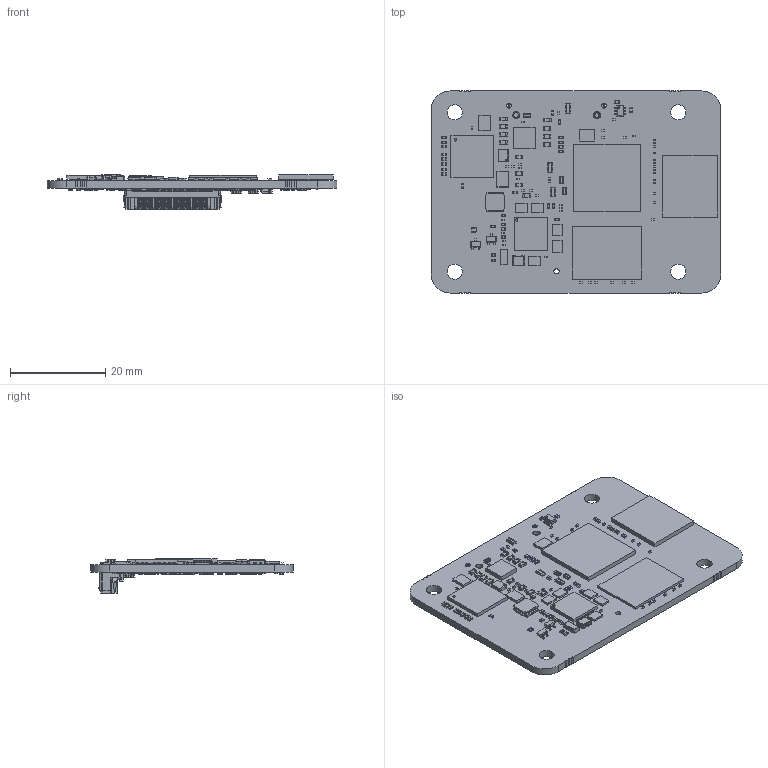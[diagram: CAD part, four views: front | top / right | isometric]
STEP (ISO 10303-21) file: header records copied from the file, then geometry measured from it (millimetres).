
FILE_DESCRIPTION( ( 'Unknown' ), '1' );
FILE_NAME( 'Q:/2003/Product3DCADModels/STEP-test/mm-ap30c01-0117-0201.stp', 'Unknown', ( 'Unknown' ), ( 'Unknown' ), 'PSStep 17.0.49', 'Unknown', ' ' );
FILE_SCHEMA( ( 'AUTOMOTIVE_DESIGN { 1 0 10303 214 1 1 1 1 }' ) );
Length unit declared in the file: millimetre
Products named in the file (390): Lead-2; Open_CASCADE_STEP_translator_6.8_1.2.1; Lead-6; Lead-4; Lead-1; Lead-7; Lead; Lead-5; Lead-3; 5993357248; body; DEFAULT; DEFAULT-1; DEFAULT-2; 7027165744; Extruded; 8520140160; User_Library-CBGA100; -e=n=±; dana; User_Library-IndLQS_4012; 8520138480; 7076530272; User_Library-CAF-40P140X60-8N; 8520138720; User_Library-OSC_2520; User_Library-Oscillator2520-4pol-1_Cut004; User_Library-Oscillator2520-4pol-1_Zylinder; User_Library-Oscillator2520-4pol-1_Cut; 7119102560; 6563465040; 6562604672; 7117065840; Open CASCADE STEP translator 6.8 20.1.1; Open CASCADE STEP translator 6.8 20.1.1.1; LSHM-130-03.0-L-DV-A-S-K-TR; _STRLSHM-30-03.0-DV-A-S; _C-185--30-03.0-DV1P; C51; C67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
Assembly tree (1235 placements, depth 6):
  Assem1
    k
    Board
      Open CASCADE STEP translator 6.8 20.1.1
        Open CASCADE STEP translator 6.8 20.1.1.1
    Z12
      7076530272
        Extruded
    U11
      User_Library-SOT363-2
    C174
      CR1005-0402
      CR1005-0402
      CR1005-0402
      CR1005-0402
    C173
      CR1005-0402
      CR1005-0402
      CR1005-0402
      CR1005-0402
    C169
      CR1005-0402
      CR1005-0402
      CR1005-0402
      CR1005-0402
    U12
      8520138720
        Extruded
    R83
      CR1005-0402
      CR1005-0402
      CR1005-0402
      CR1005-0402
    C32
      CR1608-0603
      CR1608-0603
      CR1608-0603
      CR1608-0603
    R42
      6563465040
        Extruded
    U2
      SOT353-1
    L8
      User_Library-IndLQS_4012
        DEFAULT
          DEFAULT
          DEFAULT-1  x2
          DEFAULT-2
    R55
      6563465040
        Extruded
    U1
      User_Library-QFN56_0_4
    U10
      SOT353-1
    U7
      SOT353-1
    R104
      CR1005-0402
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Bounding box: 61 x 42.5 x 7.22 mm (x, y, z)
Volume: 5042.5 mm3; surface area: 10846.3 mm2
Topology: 916 solids, 916 shells, 12194 faces, 30538 edges, 20071 vertices
Faces by surface type: plane 11066, cylinder 964, revolution 100, bspline 52, sphere 6, cone 5, torus 1
Full cylindrical faces by diameter (mm): 0.2 x2, 0.4 x100, 0.5 x2, 1 x2, 1.1 x1, 1.32 x1, 1.5 x2, 2 x2, 3.2 x4
Entity records: 178725 total; most frequent: CARTESIAN_POINT 24642, DIRECTION 24176, ORIENTED_EDGE 22978, EDGE_CURVE 11489, LINE 9917, VECTOR 9917, VERTEX_POINT 7506, AXIS2_PLACEMENT_3D 7129
